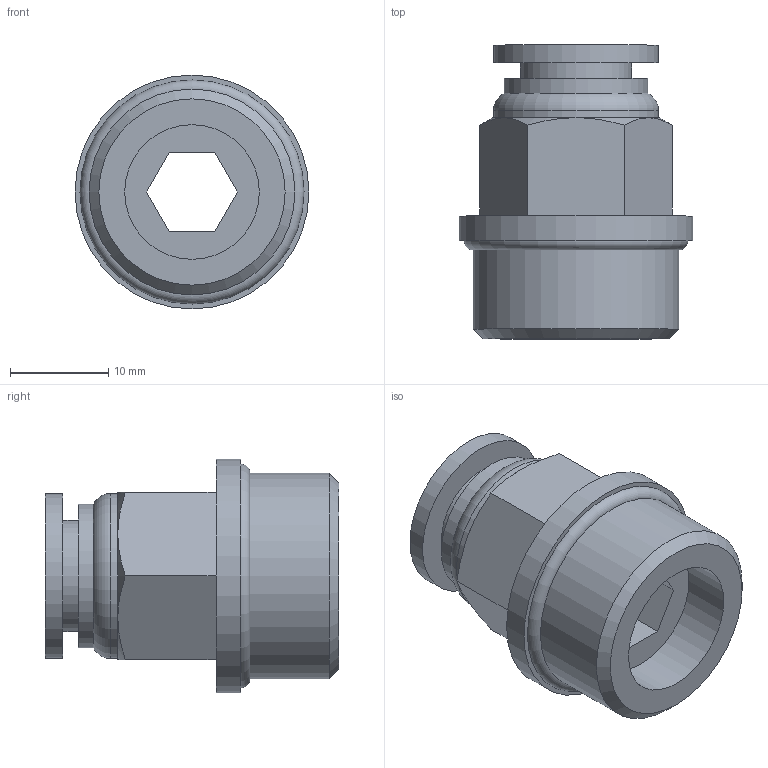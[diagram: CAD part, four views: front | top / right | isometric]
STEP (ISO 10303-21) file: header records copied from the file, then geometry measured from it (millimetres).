
FILE_DESCRIPTION(/* description */ (''),/* implementation_level */ '2;1');
FILE_NAME(/* name */ 'S:\_Tecnico\ArchivioUT\_Disegni3D ingombri\DISEGNI 3D per ingombri\RP\RP 51\RP511210.stp',/* time_stamp */ '2019-07-24T17:23:58+02:00',/* author */ ('ufficiotecnico3'),/* organization */ (''),/* preprocessor_version */ 'ST-DEVELOPER v18',/* originating_system */ 'Autodesk Inventor 2020',/* authorisation */ '');
FILE_SCHEMA (('AUTOMOTIVE_DESIGN { 1 0 10303 214 3 1 1 }'));
Length unit declared in the file: millimetre
Products named in the file (1): RP511210
Bounding box: 23.8 x 29.9 x 23.8 mm (x, y, z)
Volume: 5838.6 mm3; surface area: 3669.6 mm2
Topology: 1 solids, 1 shells, 39 faces, 93 edges, 63 vertices
Faces by surface type: plane 21, cylinder 8, cone 8, torus 2
Full cylindrical faces by diameter (mm): 10 x1, 11.3 x1, 13.7 x1, 14.6 x1, 16.8 x2, 20.955 x1, 23.8 x1
Entity records: 1185 total; most frequent: CARTESIAN_POINT 220, DIRECTION 202, ORIENTED_EDGE 186, EDGE_CURVE 93, AXIS2_PLACEMENT_3D 81, VERTEX_POINT 63, EDGE_LOOP 48, CIRCLE 41
